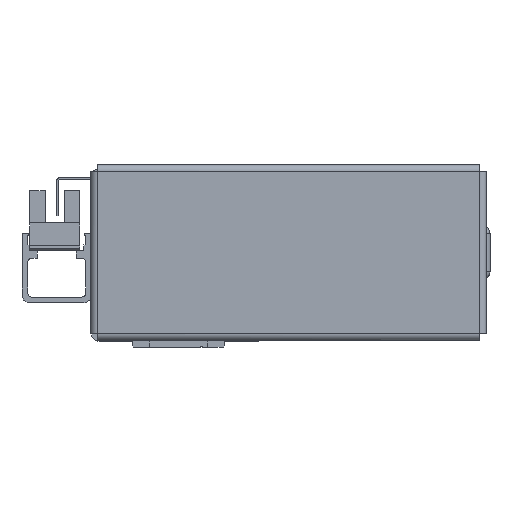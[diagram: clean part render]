
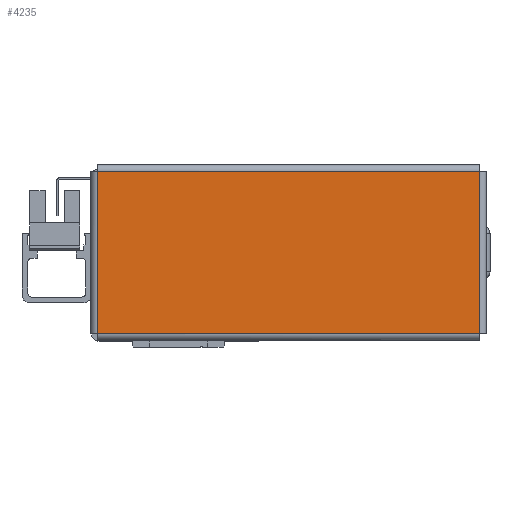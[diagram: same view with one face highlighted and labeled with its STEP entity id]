
A CAD part, left-side view. The second image highlights one B-rep face of the part: STEP entity #4235.
In plain terms, the highlighted planar face has unit normal (-1, 0, 0) as drawn and (0, 0, -1) by its records, which use the part's own axes.
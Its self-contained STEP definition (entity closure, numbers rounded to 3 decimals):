
#98 = EDGE_CURVE ( 'NONE', #19609, #19227, #13270, .T. ) ;
#391 = EDGE_LOOP ( 'NONE', ( #11099, #11787, #11811, #12734 ) ) ;
#2370 = VECTOR ( 'NONE', #10237, 1000. ) ;
#2392 = DIRECTION ( 'NONE',  ( 1., 0., 0. ) ) ;
#2916 = LINE ( 'NONE', #10487, #29293 ) ;
#4235 = ADVANCED_FACE ( 'NONE', ( #23860 ), #31333, .F. ) ;
#6333 = CARTESIAN_POINT ( 'NONE',  ( -49.513, -21.013, -1. ) ) ;
#7503 = CARTESIAN_POINT ( 'NONE',  ( 49.513, 21.013, -1. ) ) ;
#7614 = CARTESIAN_POINT ( 'NONE',  ( 49.543, -21.013, -1. ) ) ;
#8665 = CARTESIAN_POINT ( 'NONE',  ( -49.543, 21.013, -1. ) ) ;
#10237 = DIRECTION ( 'NONE',  ( -1., 0., 0. ) ) ;
#10487 = CARTESIAN_POINT ( 'NONE',  ( 49.513, 21.043, -1. ) ) ;
#11099 = ORIENTED_EDGE ( 'NONE', *, *, #98, .T. ) ;
#11301 = DIRECTION ( 'NONE',  ( 0., 1., 0. ) ) ;
#11787 = ORIENTED_EDGE ( 'NONE', *, *, #32670, .T. ) ;
#11811 = ORIENTED_EDGE ( 'NONE', *, *, #25572, .T. ) ;
#12734 = ORIENTED_EDGE ( 'NONE', *, *, #18431, .T. ) ;
#13270 = LINE ( 'NONE', #24492, #25698 ) ;
#15445 = CARTESIAN_POINT ( 'NONE',  ( 0., 0., -1. ) ) ;
#16301 = LINE ( 'NONE', #7614, #2370 ) ;
#17565 = VERTEX_POINT ( 'NONE', #32956 ) ;
#18116 = DIRECTION ( 'NONE',  ( 0., 0., 1. ) ) ;
#18388 = VERTEX_POINT ( 'NONE', #7503 ) ;
#18431 = EDGE_CURVE ( 'NONE', #17565, #19609, #16301, .T. ) ;
#19227 = VERTEX_POINT ( 'NONE', #26844 ) ;
#19609 = VERTEX_POINT ( 'NONE', #6333 ) ;
#21036 = VECTOR ( 'NONE', #24466, 1000. ) ;
#23860 = FACE_OUTER_BOUND ( 'NONE', #391, .T. ) ;
#24466 = DIRECTION ( 'NONE',  ( 1., 0., 0. ) ) ;
#24492 = CARTESIAN_POINT ( 'NONE',  ( -49.513, -21.043, -1. ) ) ;
#24664 = AXIS2_PLACEMENT_3D ( 'NONE', #15445, #18116, #2392 ) ;
#25572 = EDGE_CURVE ( 'NONE', #18388, #17565, #2916, .T. ) ;
#25698 = VECTOR ( 'NONE', #11301, 1000. ) ;
#26844 = CARTESIAN_POINT ( 'NONE',  ( -49.513, 21.013, -1. ) ) ;
#28111 = LINE ( 'NONE', #8665, #21036 ) ;
#28970 = DIRECTION ( 'NONE',  ( 0., -1., 0. ) ) ;
#29293 = VECTOR ( 'NONE', #28970, 1000. ) ;
#31333 = PLANE ( 'NONE',  #24664 ) ;
#32670 = EDGE_CURVE ( 'NONE', #19227, #18388, #28111, .T. ) ;
#32956 = CARTESIAN_POINT ( 'NONE',  ( 49.513, -21.013, -1. ) ) ;
